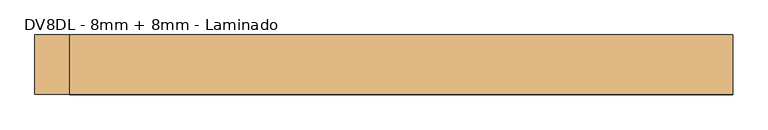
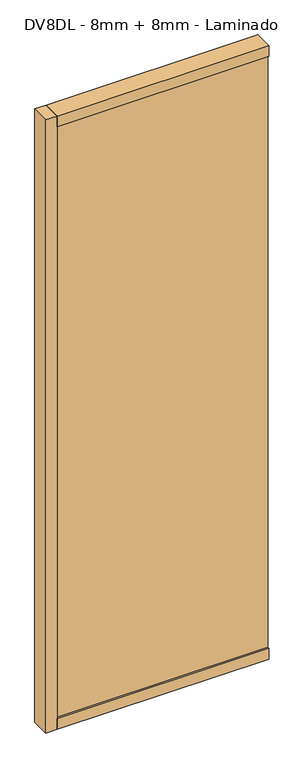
"""IFC4 building model written with IfcOpenShell, lengths in millimetres: door geometry, Mobiliário_Mobiliário de Escritório_Painel Vidro Duplo - DVDT, DVDL e DVXL (Inicial e Final)_Marelli : DV8DL - 8mm + 8mm - Laminado."""

from ifc_helpers import new_model, si_unit, frame, origin, origin_with_axes, place, context, project, spatial, polyline, outline, extrude, source, transform, mapped, element, save


def dv8dl_8mm_8mm_laminado_bab0a7c5(model_context):
    return source(origin(), model_context, "Body", "SweptSolid", [
        extrude(outline(polyline([(500.0, -42.5), (-450.0, -42.5), (-450.0, 42.5), (500.0, 42.5), (500.0, -42.5)])), origin_with_axes(), (0.0, 0.0, 1.0), 50.0),
        extrude(outline(polyline([(500.0, -42.5), (-450.0, -42.5), (-450.0, 42.5), (500.0, 42.5), (500.0, -42.5)])), frame((0.0, 0.0, 2850.0), z_axis=(0.0, 0.0, 1.0), x_axis=(1.0, 0.0, 0.0)), (0.0, 0.0, 1.0), 50.0),
        extrude(outline(polyline([(-500.0, 42.5), (-450.0, 42.5), (-450.0, -42.5), (-500.0, -42.5), (-500.0, 42.5)])), origin_with_axes(), (0.0, 0.0, 1.0), 2900.0),
        extrude(outline(polyline([(500.0, -33.1), (-450.0, -33.1), (-450.0, -25.1), (500.0, -25.1), (500.0, -33.1)])), frame((0.0, 0.0, 50.0), z_axis=(0.0, 0.0, 1.0), x_axis=(1.0, 0.0, 0.0)), (0.0, 0.0, 1.0), 2800.0),
        extrude(outline(polyline([(500.0, 33.1), (500.0, 25.1), (-450.0, 25.1), (-450.0, 33.1), (500.0, 33.1)])), frame((0.0, 0.0, 50.0), z_axis=(0.0, 0.0, 1.0), x_axis=(1.0, 0.0, 0.0)), (0.0, 0.0, 1.0), 2800.0),
    ])


if __name__ == "__main__":
    model = new_model("IFC4")
    model_context = context("Model", 3, world=origin())
    ifc_project = project(units=[si_unit("LENGTHUNIT", "METRE", prefix="MILLI")], contexts=[model_context])
    site = spatial("IfcSite", under=ifc_project)
    building = spatial("IfcBuilding", under=site)
    placement = place(None, origin())
    dv8dl_8mm_8mm_laminado_shape = dv8dl_8mm_8mm_laminado_bab0a7c5(model_context)
    element("IfcDoor", 1, ObjectType="Mobiliário_Mobiliário de Escritório_Painel Vidro Duplo - DVDT, DVDL e DVXL (Inicial e Final)_Marelli : DV8DL - 8mm + 8mm - Laminado", at=placement, inside=building, context=model_context, shape_type="MappedRepresentation", body=[
        mapped(dv8dl_8mm_8mm_laminado_shape, transform((0.0, 0.0, 0.0), x_axis=(1.0, 0.0, 0.0), y_axis=(0.0, 1.0, 0.0), z_axis=(0.0, 0.0, 1.0))),
    ])
    save(model, "model.ifc")
